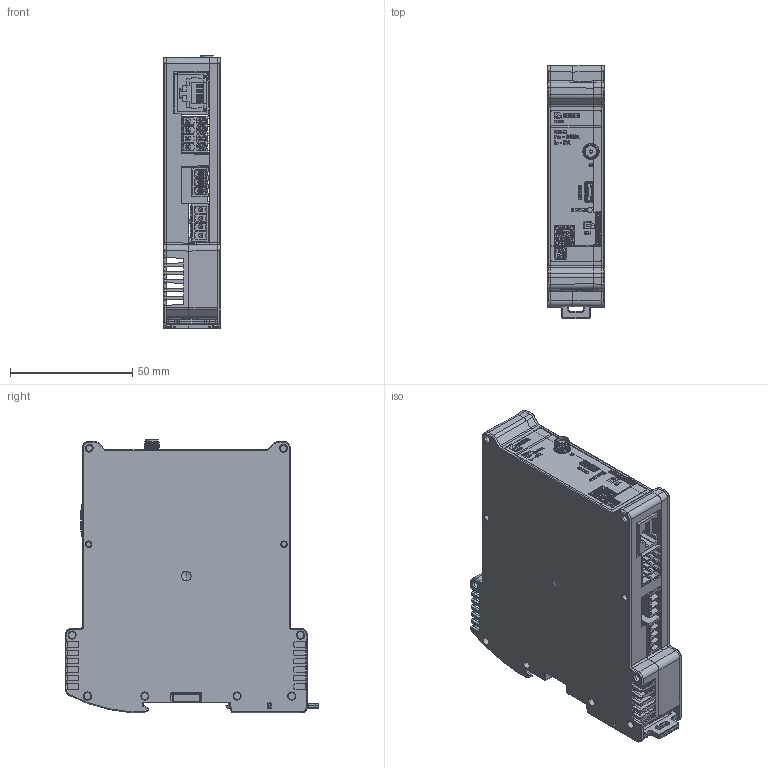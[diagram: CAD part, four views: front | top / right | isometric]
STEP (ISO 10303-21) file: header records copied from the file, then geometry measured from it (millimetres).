
FILE_DESCRIPTION (( 'STEP AP214' ), '1' );
FILE_NAME ('CC613.STEP', '2020-10-20T06:20:49', ( '' ), ( '' ), 'SwSTEP 2.0', 'SolidWorks 2020', '' );
FILE_SCHEMA (( 'AUTOMOTIVE_DESIGN' ));
Length unit declared in the file: millimetre
Products named in the file (1): CC613
Bounding box: 23.65 x 103.63 x 111.97 mm (x, y, z)
Volume: 39469.3 mm3; surface area: 76712.1 mm2
Topology: 16 solids, 26 shells, 8614 faces, 24003 edges, 15524 vertices
Faces by surface type: plane 5766, cylinder 1820, bspline 613, cone 233, torus 157, sphere 25
Entity records: 297971 total; most frequent: CARTESIAN_POINT 85134, ORIENTED_EDGE 47762, DIRECTION 39069, EDGE_CURVE 23881, LINE 16487, VECTOR 16487, VERTEX_POINT 15514, AXIS2_PLACEMENT_3D 11291
